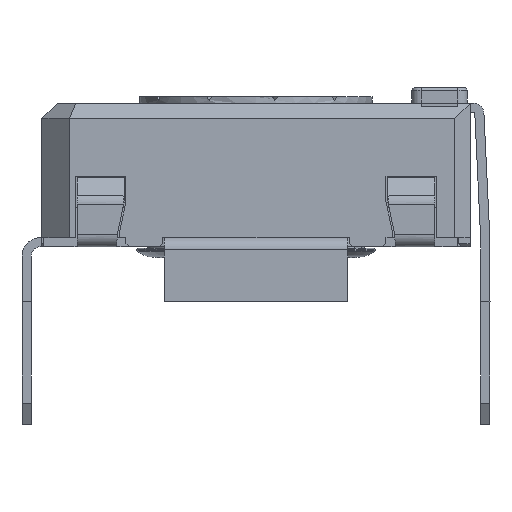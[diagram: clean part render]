
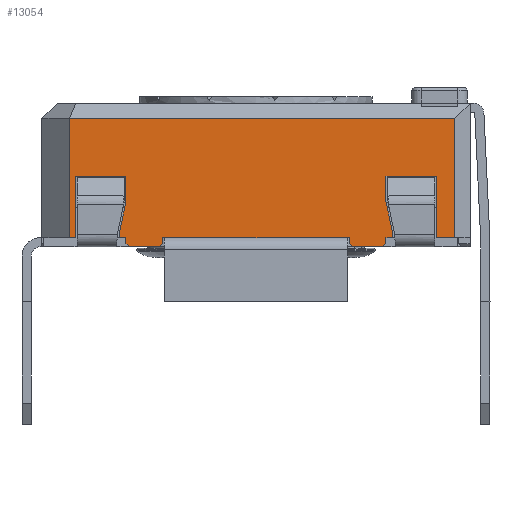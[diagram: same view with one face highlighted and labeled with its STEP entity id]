
A CAD part, left-side view. The second image highlights one B-rep face of the part: STEP entity #13054.
In plain terms, the highlighted planar face has unit normal (-1, 0, 0).
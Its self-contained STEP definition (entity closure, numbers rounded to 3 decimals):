
#450=PLANE('',#13942);
#1056=FACE_OUTER_BOUND('',#1750,.T.);
#1750=EDGE_LOOP('',(#10766,#10767,#10768,#10769,#10770,#10771,#10772,#10773,
#10774,#10775,#10776,#10777,#10778,#10779,#10780,#10781,#10782,#10783,#10784,
#10785,#10786,#10787,#10788,#10789,#10790,#10791,#10792,#10793));
#2121=LINE('',#18180,#3621);
#2126=LINE('',#18190,#3626);
#2131=LINE('',#18200,#3631);
#2790=LINE('',#20002,#4290);
#2795=LINE('',#20011,#4295);
#2798=LINE('',#20017,#4298);
#2802=LINE('',#20024,#4302);
#2826=LINE('',#20072,#4326);
#2829=LINE('',#20078,#4329);
#2834=LINE('',#20088,#4334);
#2837=LINE('',#20094,#4337);
#2840=LINE('',#20100,#4340);
#2858=LINE('',#20135,#4358);
#2870=LINE('',#20157,#4370);
#2873=LINE('',#20163,#4373);
#2910=LINE('',#20297,#4410);
#2918=LINE('',#20311,#4418);
#2927=LINE('',#20329,#4427);
#2932=LINE('',#20339,#4432);
#2934=LINE('',#20342,#4434);
#3055=LINE('',#20643,#4555);
#3057=LINE('',#20648,#4557);
#3060=LINE('',#20652,#4560);
#3062=LINE('',#20656,#4562);
#3065=LINE('',#20664,#4565);
#3066=LINE('',#20666,#4566);
#3067=LINE('',#20667,#4567);
#3068=LINE('',#20668,#4568);
#3621=VECTOR('',#14546,10.);
#3626=VECTOR('',#14551,10.);
#3631=VECTOR('',#14556,10.);
#4290=VECTOR('',#16073,10.);
#4295=VECTOR('',#16080,10.);
#4298=VECTOR('',#16085,10.);
#4302=VECTOR('',#16091,10.);
#4326=VECTOR('',#16135,10.);
#4329=VECTOR('',#16140,10.);
#4334=VECTOR('',#16147,10.);
#4337=VECTOR('',#16152,10.);
#4340=VECTOR('',#16157,10.);
#4358=VECTOR('',#16177,10.);
#4370=VECTOR('',#16191,10.);
#4373=VECTOR('',#16196,10.);
#4410=VECTOR('',#16277,10.);
#4418=VECTOR('',#16287,10.);
#4427=VECTOR('',#16298,10.);
#4432=VECTOR('',#16305,10.);
#4434=VECTOR('',#16309,10.);
#4555=VECTOR('',#16590,10.);
#4557=VECTOR('',#16594,10.);
#4560=VECTOR('',#16599,10.);
#4562=VECTOR('',#16605,10.);
#4565=VECTOR('',#16616,10.);
#4566=VECTOR('',#16617,10.);
#4567=VECTOR('',#16618,10.);
#4568=VECTOR('',#16619,10.);
#5445=VERTEX_POINT('',#18177);
#5446=VERTEX_POINT('',#18179);
#5450=VERTEX_POINT('',#18187);
#5451=VERTEX_POINT('',#18189);
#5455=VERTEX_POINT('',#18197);
#5456=VERTEX_POINT('',#18199);
#6013=VERTEX_POINT('',#19999);
#6014=VERTEX_POINT('',#20001);
#6018=VERTEX_POINT('',#20014);
#6021=VERTEX_POINT('',#20022);
#6034=VERTEX_POINT('',#20069);
#6036=VERTEX_POINT('',#20075);
#6040=VERTEX_POINT('',#20085);
#6042=VERTEX_POINT('',#20091);
#6045=VERTEX_POINT('',#20098);
#6061=VERTEX_POINT('',#20133);
#6070=VERTEX_POINT('',#20155);
#6072=VERTEX_POINT('',#20161);
#6099=VERTEX_POINT('',#20295);
#6104=VERTEX_POINT('',#20309);
#6111=VERTEX_POINT('',#20326);
#6115=VERTEX_POINT('',#20336);
#6189=VERTEX_POINT('',#20640);
#6190=VERTEX_POINT('',#20642);
#6191=VERTEX_POINT('',#20646);
#6192=VERTEX_POINT('',#20647);
#6193=VERTEX_POINT('',#20663);
#6194=VERTEX_POINT('',#20665);
#6689=EDGE_CURVE('',#5446,#5445,#2121,.T.);
#6694=EDGE_CURVE('',#5451,#5450,#2126,.T.);
#6699=EDGE_CURVE('',#5456,#5455,#2131,.T.);
#7534=EDGE_CURVE('',#6014,#6013,#2790,.T.);
#7539=EDGE_CURVE('',#6013,#5456,#2795,.T.);
#7542=EDGE_CURVE('',#5455,#6018,#2798,.T.);
#7546=EDGE_CURVE('',#6021,#6018,#2802,.T.);
#7571=EDGE_CURVE('',#5445,#6034,#2826,.T.);
#7574=EDGE_CURVE('',#6034,#6036,#2829,.T.);
#7579=EDGE_CURVE('',#6036,#6040,#2834,.T.);
#7582=EDGE_CURVE('',#6040,#6042,#2837,.T.);
#7585=EDGE_CURVE('',#6042,#6045,#2840,.T.);
#7603=EDGE_CURVE('',#6045,#6061,#2858,.T.);
#7615=EDGE_CURVE('',#6070,#6061,#2870,.T.);
#7618=EDGE_CURVE('',#6072,#6070,#2873,.T.);
#7667=EDGE_CURVE('',#6099,#6072,#2910,.T.);
#7675=EDGE_CURVE('',#6099,#6104,#2918,.T.);
#7684=EDGE_CURVE('',#6104,#6111,#2927,.T.);
#7689=EDGE_CURVE('',#6111,#6115,#2932,.T.);
#7691=EDGE_CURVE('',#6115,#6014,#2934,.T.);
#7828=EDGE_CURVE('',#6189,#6190,#3055,.T.);
#7830=EDGE_CURVE('',#6191,#6192,#3057,.T.);
#7833=EDGE_CURVE('',#5446,#6189,#3060,.T.);
#7835=EDGE_CURVE('',#5450,#6192,#3062,.T.);
#7838=EDGE_CURVE('',#6021,#6193,#3065,.T.);
#7839=EDGE_CURVE('',#6194,#6193,#3066,.T.);
#7840=EDGE_CURVE('',#5451,#6194,#3067,.T.);
#7841=EDGE_CURVE('',#6191,#6190,#3068,.T.);
#10766=ORIENTED_EDGE('',*,*,#7539,.T.);
#10767=ORIENTED_EDGE('',*,*,#6699,.T.);
#10768=ORIENTED_EDGE('',*,*,#7542,.T.);
#10769=ORIENTED_EDGE('',*,*,#7546,.F.);
#10770=ORIENTED_EDGE('',*,*,#7838,.T.);
#10771=ORIENTED_EDGE('',*,*,#7839,.F.);
#10772=ORIENTED_EDGE('',*,*,#7840,.F.);
#10773=ORIENTED_EDGE('',*,*,#6694,.T.);
#10774=ORIENTED_EDGE('',*,*,#7835,.T.);
#10775=ORIENTED_EDGE('',*,*,#7830,.F.);
#10776=ORIENTED_EDGE('',*,*,#7841,.T.);
#10777=ORIENTED_EDGE('',*,*,#7828,.F.);
#10778=ORIENTED_EDGE('',*,*,#7833,.F.);
#10779=ORIENTED_EDGE('',*,*,#6689,.T.);
#10780=ORIENTED_EDGE('',*,*,#7571,.T.);
#10781=ORIENTED_EDGE('',*,*,#7574,.T.);
#10782=ORIENTED_EDGE('',*,*,#7579,.T.);
#10783=ORIENTED_EDGE('',*,*,#7582,.T.);
#10784=ORIENTED_EDGE('',*,*,#7585,.T.);
#10785=ORIENTED_EDGE('',*,*,#7603,.T.);
#10786=ORIENTED_EDGE('',*,*,#7615,.F.);
#10787=ORIENTED_EDGE('',*,*,#7618,.F.);
#10788=ORIENTED_EDGE('',*,*,#7667,.F.);
#10789=ORIENTED_EDGE('',*,*,#7675,.T.);
#10790=ORIENTED_EDGE('',*,*,#7684,.T.);
#10791=ORIENTED_EDGE('',*,*,#7689,.T.);
#10792=ORIENTED_EDGE('',*,*,#7691,.T.);
#10793=ORIENTED_EDGE('',*,*,#7534,.T.);
#13054=ADVANCED_FACE('',(#1056),#450,.T.);
#13942=AXIS2_PLACEMENT_3D('',#20662,#16614,#16615);
#14546=DIRECTION('',(0.,-1.,0.));
#14551=DIRECTION('',(0.,-1.,0.));
#14556=DIRECTION('',(0.,-1.,0.));
#16073=DIRECTION('',(0.,0.208,-0.978));
#16080=DIRECTION('',(0.,0.,-1.));
#16085=DIRECTION('',(0.,0.,-1.));
#16091=DIRECTION('',(0.,0.707,0.707));
#16135=DIRECTION('',(0.,0.,1.));
#16140=DIRECTION('',(0.,0.208,0.978));
#16147=DIRECTION('',(0.,0.,1.));
#16152=DIRECTION('',(0.,-1.,0.));
#16157=DIRECTION('',(0.,0.,-1.));
#16177=DIRECTION('',(0.,-1.,0.));
#16191=DIRECTION('',(0.,0.,-1.));
#16196=DIRECTION('',(0.,-1.,0.));
#16277=DIRECTION('',(0.,0.,1.));
#16287=DIRECTION('',(0.,-1.,0.));
#16298=DIRECTION('',(0.,0.,1.));
#16305=DIRECTION('',(0.,-1.,0.));
#16309=DIRECTION('',(0.,0.,-1.));
#16590=DIRECTION('',(0.,0.707,-0.707));
#16594=DIRECTION('',(0.,0.707,0.707));
#16599=DIRECTION('',(0.,0.,-1.));
#16605=DIRECTION('',(0.,0.,-1.));
#16614=DIRECTION('center_axis',(-1.,0.,0.));
#16615=DIRECTION('ref_axis',(0.,0.,1.));
#16616=DIRECTION('',(0.,-1.,0.));
#16617=DIRECTION('',(0.,0.707,-0.707));
#16618=DIRECTION('',(0.,0.,-1.));
#16619=DIRECTION('',(0.,-1.,0.));
#18177=CARTESIAN_POINT('',(-14.467,-7.348,0.));
#18179=CARTESIAN_POINT('',(-14.467,-7.148,0.));
#18180=CARTESIAN_POINT('',(-14.467,4.102,0.));
#18187=CARTESIAN_POINT('',(-14.467,-5.948,0.));
#18189=CARTESIAN_POINT('',(-14.467,0.152,0.));
#18190=CARTESIAN_POINT('',(-14.467,4.102,0.));
#18197=CARTESIAN_POINT('',(-14.467,1.352,0.));
#18199=CARTESIAN_POINT('',(-14.467,1.552,0.));
#18200=CARTESIAN_POINT('',(-14.467,4.102,0.));
#19999=CARTESIAN_POINT('',(-14.467,1.552,0.235));
#20001=CARTESIAN_POINT('',(-14.467,1.352,1.176));
#20002=CARTESIAN_POINT('',(-14.467,1.228,1.757));
#20011=CARTESIAN_POINT('',(-14.467,1.552,0.));
#20014=CARTESIAN_POINT('',(-14.467,1.352,-0.2));
#20017=CARTESIAN_POINT('',(-14.467,1.352,0.));
#20022=CARTESIAN_POINT('',(-14.467,1.252,-0.3));
#20024=CARTESIAN_POINT('',(-14.467,-1.436,-2.988));
#20069=CARTESIAN_POINT('',(-14.467,-7.348,0.235));
#20072=CARTESIAN_POINT('',(-14.467,-7.348,0.118));
#20075=CARTESIAN_POINT('',(-14.467,-7.148,1.176));
#20078=CARTESIAN_POINT('',(-14.467,-7.453,-0.254));
#20085=CARTESIAN_POINT('',(-14.467,-7.148,2.));
#20088=CARTESIAN_POINT('',(-14.467,-7.148,0.588));
#20091=CARTESIAN_POINT('',(-14.467,-8.798,2.));
#20094=CARTESIAN_POINT('',(-14.467,-8.523,2.));
#20098=CARTESIAN_POINT('',(-14.467,-8.798,0.));
#20100=CARTESIAN_POINT('',(-14.467,-8.798,0.));
#20133=CARTESIAN_POINT('',(-14.467,-9.398,0.));
#20135=CARTESIAN_POINT('',(-14.467,-9.595,0.));
#20155=CARTESIAN_POINT('',(-14.467,-9.398,3.9));
#20157=CARTESIAN_POINT('',(-14.467,-9.398,0.));
#20161=CARTESIAN_POINT('',(-14.467,3.202,3.9));
#20163=CARTESIAN_POINT('',(-14.467,-6.398,3.9));
#20295=CARTESIAN_POINT('',(-14.467,3.202,0.));
#20297=CARTESIAN_POINT('',(-14.467,3.202,0.));
#20309=CARTESIAN_POINT('',(-14.467,3.002,0.));
#20311=CARTESIAN_POINT('',(-14.467,-2.985,0.));
#20326=CARTESIAN_POINT('',(-14.467,3.002,2.));
#20329=CARTESIAN_POINT('',(-14.467,3.002,0.));
#20336=CARTESIAN_POINT('',(-14.467,1.352,2.));
#20339=CARTESIAN_POINT('',(-14.467,-3.448,2.));
#20342=CARTESIAN_POINT('',(-14.467,1.352,1.));
#20640=CARTESIAN_POINT('',(-14.467,-7.148,-0.2));
#20642=CARTESIAN_POINT('',(-14.467,-7.048,-0.3));
#20643=CARTESIAN_POINT('',(-14.467,-7.861,0.513));
#20646=CARTESIAN_POINT('',(-14.467,-6.048,-0.3));
#20647=CARTESIAN_POINT('',(-14.467,-5.948,-0.2));
#20648=CARTESIAN_POINT('',(-14.467,-6.911,-1.163));
#20652=CARTESIAN_POINT('',(-14.467,-7.148,0.));
#20656=CARTESIAN_POINT('',(-14.467,-5.948,0.));
#20662=CARTESIAN_POINT('Origin',(-14.467,-9.898,0.));
#20663=CARTESIAN_POINT('',(-14.467,0.252,-0.3));
#20664=CARTESIAN_POINT('',(-14.467,0.152,-0.3));
#20665=CARTESIAN_POINT('',(-14.467,0.152,-0.2));
#20666=CARTESIAN_POINT('',(-14.467,-2.386,2.338));
#20667=CARTESIAN_POINT('',(-14.467,0.152,0.));
#20668=CARTESIAN_POINT('',(-14.467,-7.148,-0.3));
